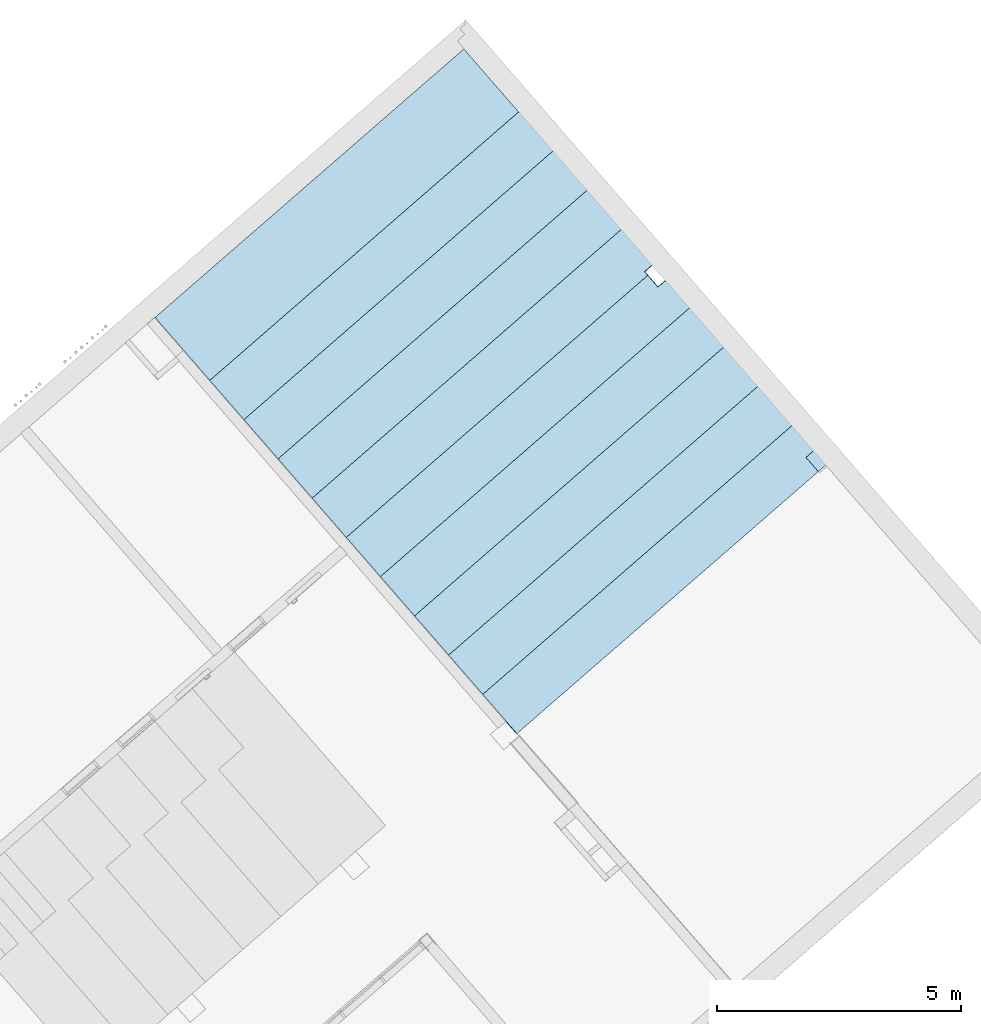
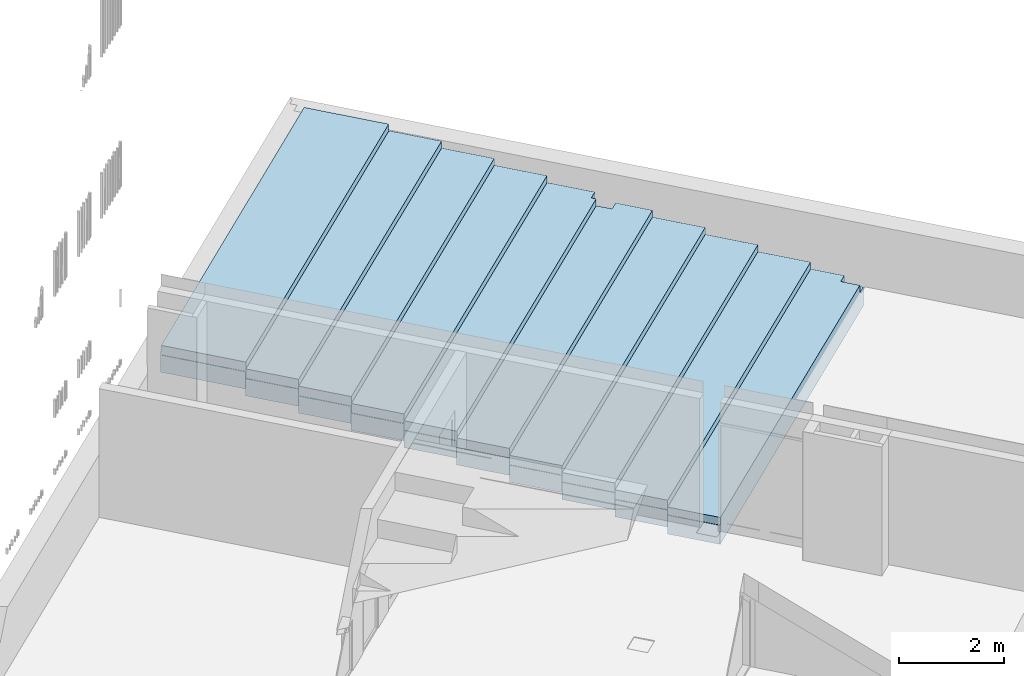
# One storey, part 18 of 124: 10 slabs.
"""IFC2X3 building model written with IfcOpenShell, lengths in millimetres."""

from ifc_helpers import new_model, entity, si_unit, converted_unit, derived_unit, money_unit, direction, frame, origin_with_axes, place, context, subcontext, project, spatial, faceted_brep, material, material_list, type_object, element, save


model = new_model("IFC2X3")

# Units and contexts
model_context = context("Model", 3, precision=1e-05, world=origin_with_axes(), true_north=direction((0.0, 1.0)))
body_context = subcontext(model_context, "Body", "Model", "MODEL_VIEW")
ifc_project = project(units=[si_unit("LENGTHUNIT", "METRE", prefix="MILLI"), si_unit("AREAUNIT", "SQUARE_METRE"), si_unit("VOLUMEUNIT", "CUBIC_METRE"), converted_unit("PLANEANGLEUNIT", "DEGREE", entity("IfcPlaneAngleMeasure", 0.0174532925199), si_unit("PLANEANGLEUNIT", "RADIAN"), dimensions=[0, 0, 0, 0, 0, 0, 0]), si_unit("SOLIDANGLEUNIT", "STERADIAN"), money_unit("EUR"), converted_unit("TIMEUNIT", "Year", entity("IfcTimeMeasure", 31556926.0), si_unit("TIMEUNIT", "SECOND"), dimensions=[0, 0, 1, 0, 0, 0, 0]), si_unit("MASSUNIT", "GRAM", prefix="KILO"), si_unit("THERMODYNAMICTEMPERATUREUNIT", "DEGREE_CELSIUS"), si_unit("LUMINOUSINTENSITYUNIT", "LUMEN"), si_unit("ENERGYUNIT", "JOULE", prefix="MEGA"), derived_unit("THERMALCONDUCTANCEUNIT", [(si_unit("POWERUNIT", "WATT"), 1), (si_unit("LENGTHUNIT", "METRE"), -1), (si_unit("THERMODYNAMICTEMPERATUREUNIT", "KELVIN"), -1)]), derived_unit("SPECIFICHEATCAPACITYUNIT", [(si_unit("ENERGYUNIT", "JOULE"), 1), (si_unit("MASSUNIT", "GRAM", prefix="KILO"), -1), (si_unit("THERMODYNAMICTEMPERATUREUNIT", "KELVIN"), -1)]), derived_unit("MASSDENSITYUNIT", [(si_unit("MASSUNIT", "GRAM", prefix="KILO"), 1), (si_unit("VOLUMEUNIT", "CUBIC_METRE"), -1)])], contexts=[model_context])

# Site, building, storey
site_placement = place(None, origin_with_axes())
site = spatial("IfcSite", under=ifc_project, at=site_placement, Name="Site", CompositionType="ELEMENT")
building_placement = place(site_placement, origin_with_axes())
building = spatial("IfcBuilding", under=site, at=building_placement, Name="Building", CompositionType="ELEMENT")
storey_placement = place(building_placement, frame((0.0, 0.0, -1615.0), z_axis=(0.0, 0.0, 1.0), x_axis=(1.0, 0.0, 0.0)))
storey = spatial("IfcBuildingStorey", under=building, at=storey_placement, Name="0  korrus", CompositionType="ELEMENT", Elevation=-1615.0)

# Slabs
ifc_material_1 = material(Name="Puit - Põrand")
ifc_material_2 = material(Name="Betoon")
ifc_material_3 = material(Name="Soojustus - Plastik Kõva")
ifc_material_4 = material(Name="Killustik")
ifc_material_list = material_list([ifc_material_1, ifc_material_2, ifc_material_3, ifc_material_3, ifc_material_4])
slab_type = type_object("IfcSlabType", Name="PP-01", PredefinedType="FLOOR")
slab_1_placement = place(storey_placement, frame((164985.791341, 103443.252918, 640.0), z_axis=(0.0, 0.0, 1.0), x_axis=(1.0, 0.0, 0.0)))
element("IfcSlab", 1, at=slab_1_placement, inside=storey, type_object=slab_type, material=ifc_material_list, Name="PP-01", PredefinedType="FLOOR", context=body_context, shape_type="Brep", body=[
    faceted_brep([(7.54744711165, 6.56089567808, 0.0), (706.250316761, -797.204811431, 0.0), (7038.26334374, 4707.13013753, 0.0), (6339.56050536, 5510.89587053, 0.0), (706.250316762, -797.204811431, -20.0), (7.54744711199, 6.56089567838, -20.0), (7038.26334374, 4707.13013753, -20.0), (6339.56050536, 5510.89587053, -20.0)], [[[0, 1, 2, 3]], [[4, 1, 0, 5]], [[1, 4, 6, 2]], [[6, 7, 3, 2]], [[5, 0, 3, 7]], [[4, 5, 7, 6]]]),
    faceted_brep([(7.54744711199, 6.56089567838, -20.0), (706.250316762, -797.204811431, -20.0), (7038.26334374, 4707.13013753, -20.0), (6339.56050536, 5510.89587053, -20.0), (706.250316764, -797.204811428, -220.0), (7.5474471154, 6.56089568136, -220.0), (7038.26334374, 4707.13013753, -220.0), (6339.56050536, 5510.89587053, -220.0)], [[[0, 1, 2, 3]], [[4, 1, 0, 5]], [[1, 4, 6, 2]], [[6, 7, 3, 2]], [[5, 0, 3, 7]], [[4, 5, 7, 6]]]),
    faceted_brep([(0.0, 0.0, -320.0), (698.702869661, -803.765707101, -320.0), (698.702869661, -803.765707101, -220.0), (0.0, 0.0, -220.0), (6339.56050536, 5510.89587053, -320.0), (7038.26334374, 4707.13013753, -320.0), (7038.26334374, 4707.13013753, -220.0), (6339.56050536, 5510.89587053, -220.0)], [[[0, 1, 2, 3]], [[1, 0, 4, 5]], [[1, 5, 6, 2]], [[7, 3, 2, 6]], [[4, 0, 3, 7]], [[5, 4, 7, 6]]]),
    faceted_brep([(0.0, 0.0, -420.0), (698.702869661, -803.765707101, -420.0), (698.702869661, -803.765707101, -320.0), (0.0, 0.0, -320.0), (6339.56050536, 5510.89587053, -420.0), (7038.26334374, 4707.13013753, -420.0), (7038.26334374, 4707.13013753, -320.0), (6339.56050536, 5510.89587053, -320.0)], [[[0, 1, 2, 3]], [[1, 0, 4, 5]], [[1, 5, 6, 2]], [[7, 3, 2, 6]], [[4, 0, 3, 7]], [[5, 4, 7, 6]]]),
    faceted_brep([(0.0, 0.0, -620.0), (698.702869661, -803.765707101, -620.0), (698.702869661, -803.765707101, -420.0), (0.0, 0.0, -420.0), (6339.56050536, 5510.89587053, -620.0), (7038.26334374, 4707.13013753, -620.0), (7038.26334374, 4707.13013753, -420.0), (6339.56050536, 5510.89587053, -420.0)], [[[0, 1, 2, 3]], [[1, 0, 4, 5]], [[1, 5, 6, 2]], [[7, 3, 2, 6]], [[4, 0, 3, 7]], [[5, 4, 7, 6]]]),
])
slab_2_placement = place(storey_placement, frame((167081.899856, 101031.955719, 160.0), z_axis=(0.0, 0.0, 1.0), x_axis=(1.0, 0.0, 0.0)))
element("IfcSlab", 2, at=slab_2_placement, inside=storey, type_object=slab_type, material=ifc_material_list, Name="PP-01", PredefinedType="FLOOR", context=body_context, shape_type="Brep", body=[
    faceted_brep([(479.910019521, -536.829898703, 0.0), (479.98055869, -536.768579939, 0.0), (706.32094866, -797.143412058, 0.0), (6879.77457733, 4569.35795477, 0.0), (6627.19182618, 4859.92116991, 0.0), (6785.68060417, 4997.69336365, 0.0), (6339.56050536, 5510.89587053, 0.0), (7.54753898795, 6.56097554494, 0.0), (479.910019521, -536.829898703, -20.0), (479.98055869, -536.768579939, -20.0), (706.32094866, -797.143412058, -20.0), (6879.77457733, 4569.35795477, -20.0), (6627.19182618, 4859.92116991, -20.0), (6785.68060417, 4997.69336365, -20.0), (6339.56050536, 5510.89587053, -20.0), (7.54753898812, 6.56097554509, -20.0)], [[[0, 1, 2, 3, 4, 5, 6, 7]], [[1, 0, 8, 9]], [[10, 2, 1, 9]], [[2, 10, 11, 3]], [[4, 3, 11, 12]], [[13, 5, 4, 12]], [[5, 13, 14, 6]], [[14, 15, 7, 6]], [[8, 0, 7, 15]], [[9, 8, 15, 14, 13, 12, 11, 10]]]),
    faceted_brep([(479.910019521, -536.829898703, -20.0), (479.98055869, -536.768579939, -20.0), (706.32094866, -797.143412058, -20.0), (6879.77457733, 4569.35795477, -20.0), (6627.19182618, 4859.92116991, -20.0), (6785.68060417, 4997.69336365, -20.0), (6339.56050536, 5510.89587053, -20.0), (7.54753898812, 6.56097554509, -20.0), (479.910019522, -536.829898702, -180.0), (479.98055869, -536.768579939, -180.0), (706.32094866, -797.143412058, -180.0), (706.250408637, -797.204731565, -180.0), (698.703312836, -803.765321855, -180.0), (698.702869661, -803.765707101, -220.0), (7038.26334374, 4707.13013753, -220.0), (7038.26334374, 4707.13013753, -180.0), (6879.77457733, 4569.35795477, -180.0), (6627.19182618, 4859.92116991, -180.0), (6785.68059309, 4997.69335402, -180.0), (6339.56050536, 5510.89587053, -220.0), (0.000443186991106, 0.000385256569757, -180.0), (7.54753898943, 6.56097554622, -180.0), (0.0, 0.0, -220.0)], [[[0, 1, 2, 3, 4, 5, 6, 7]], [[1, 0, 8, 9]], [[10, 2, 1, 9]], [[10, 11, 12, 13, 14, 15, 16, 3, 2]], [[4, 3, 16, 17]], [[18, 5, 4, 17]], [[18, 15, 14, 19, 6, 5]], [[20, 21, 7, 6, 19, 22]], [[8, 0, 7, 21]], [[11, 10, 9, 8, 21, 20, 12]], [[13, 12, 20, 22]], [[14, 13, 22, 19]], [[15, 18, 17, 16]]]),
    faceted_brep([(698.702869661, -803.765707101, -320.0), (698.702869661, -803.765707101, -220.0), (0.0, 0.0, -220.0), (0.0, 0.0, -320.0), (7038.26334374, 4707.13013753, -320.0), (7038.26334374, 4707.13013753, -220.0), (6339.56050536, 5510.89587053, -220.0), (6339.56050536, 5510.89587053, -320.0)], [[[0, 1, 2, 3]], [[4, 5, 1, 0]], [[2, 1, 5, 6]], [[3, 2, 6, 7]], [[3, 7, 4, 0]], [[7, 6, 5, 4]]]),
    faceted_brep([(698.702869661, -803.765707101, -420.0), (698.702869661, -803.765707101, -320.0), (0.0, 0.0, -320.0), (0.0, 0.0, -420.0), (7038.26334374, 4707.13013753, -420.0), (7038.26334374, 4707.13013753, -320.0), (6339.56050536, 5510.89587053, -320.0), (6339.56050536, 5510.89587053, -420.0)], [[[0, 1, 2, 3]], [[4, 5, 1, 0]], [[2, 1, 5, 6]], [[3, 2, 6, 7]], [[3, 7, 4, 0]], [[7, 6, 5, 4]]]),
    faceted_brep([(698.702869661, -803.765707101, -620.0), (698.702869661, -803.765707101, -420.0), (0.0, 0.0, -420.0), (0.0, 0.0, -620.0), (7038.26334374, 4707.13013753, -620.0), (7038.26334374, 4707.13013753, -420.0), (6339.56050536, 5510.89587053, -420.0), (6339.56050536, 5510.89587053, -620.0)], [[[0, 1, 2, 3]], [[4, 5, 1, 0]], [[2, 1, 5, 6]], [[3, 2, 6, 7]], [[3, 7, 4, 0]], [[7, 6, 5, 4]]]),
])
slab_3_placement = place(storey_placement, frame((161492.277149, 107462.081583, 1440.0), z_axis=(0.0, 0.0, 1.0), x_axis=(1.0, 0.0, 0.0)))
element("IfcSlab", 3, at=slab_3_placement, inside=storey, type_object=slab_type, material=ifc_material_list, Name="PP-01", PredefinedType="FLOOR", context=body_context, shape_type="Brep", body=[
    faceted_brep([(7.54729396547, 6.56076255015, 0.0), (706.250163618, -797.204944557, 0.0), (7038.26334374, 4707.13013753, 0.0), (6339.56050536, 5510.89587053, 0.0), (706.250163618, -797.204944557, -20.0), (7.5472939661, 6.56076255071, -20.0), (7038.26334374, 4707.13013753, -20.0), (6339.56050536, 5510.89587053, -20.0)], [[[0, 1, 2, 3]], [[4, 1, 0, 5]], [[1, 4, 6, 2]], [[6, 7, 3, 2]], [[5, 0, 3, 7]], [[4, 5, 7, 6]]]),
    faceted_brep([(7.5472939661, 6.56076255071, -20.0), (706.250163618, -797.204944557, -20.0), (7038.26334374, 4707.13013753, -20.0), (6339.56050536, 5510.89587053, -20.0), (706.250163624, -797.204944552, -220.0), (7.54729397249, 6.56076255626, -220.0), (7038.26334374, 4707.13013753, -220.0), (6339.56050536, 5510.89587053, -220.0)], [[[0, 1, 2, 3]], [[4, 1, 0, 5]], [[1, 4, 6, 2]], [[6, 7, 3, 2]], [[5, 0, 3, 7]], [[4, 5, 7, 6]]]),
    faceted_brep([(0.0, 0.0, -320.0), (698.702869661, -803.765707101, -320.0), (698.702869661, -803.765707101, -220.0), (0.0, 0.0, -220.0), (6339.56050536, 5510.89587053, -320.0), (7038.26334374, 4707.13013753, -320.0), (7038.26334374, 4707.13013753, -220.0), (6339.56050536, 5510.89587053, -220.0)], [[[0, 1, 2, 3]], [[1, 0, 4, 5]], [[1, 5, 6, 2]], [[7, 3, 2, 6]], [[4, 0, 3, 7]], [[5, 4, 7, 6]]]),
    faceted_brep([(0.0, 0.0, -420.0), (698.702869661, -803.765707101, -420.0), (698.702869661, -803.765707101, -320.0), (0.0, 0.0, -320.0), (6339.56050536, 5510.89587053, -420.0), (7038.26334374, 4707.13013753, -420.0), (7038.26334374, 4707.13013753, -320.0), (6339.56050536, 5510.89587053, -320.0)], [[[0, 1, 2, 3]], [[1, 0, 4, 5]], [[1, 5, 6, 2]], [[7, 3, 2, 6]], [[4, 0, 3, 7]], [[5, 4, 7, 6]]]),
    faceted_brep([(0.0, 0.0, -620.0), (698.702869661, -803.765707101, -620.0), (698.702869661, -803.765707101, -420.0), (0.0, 0.0, -420.0), (6339.56050536, 5510.89587053, -620.0), (7038.26334374, 4707.13013753, -620.0), (7038.26334374, 4707.13013753, -420.0), (6339.56050536, 5510.89587053, -420.0)], [[[0, 1, 2, 3]], [[1, 0, 4, 5]], [[1, 5, 6, 2]], [[7, 3, 2, 6]], [[4, 0, 3, 7]], [[5, 4, 7, 6]]]),
])
slab_4_placement = place(storey_placement, frame((160363.855622, 108760.182057, 1600.0), z_axis=(0.0, 0.0, 1.0), x_axis=(1.0, 0.0, 0.0)))
element("IfcSlab", 4, at=slab_4_placement, inside=storey, type_object=slab_type, material=ifc_material_list, Name="PP-01", PredefinedType="FLOOR", context=body_context, shape_type="Brep", body=[
    faceted_brep([(7460.43490846, 4206.23478127, -20.0), (7460.43490846, 4206.23478127, 0.0), (1135.96882105, -1291.53971191, 0.0), (1135.96882106, -1291.53971191, -20.0), (6338.57397142, 5496.78816072, -20.0), (6338.57397142, 5496.78816072, 0.0), (14.1079329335, -0.986291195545, 0.0), (14.1079329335, -0.986291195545, -20.0)], [[[0, 1, 2, 3]], [[1, 0, 4, 5]], [[1, 5, 6, 2]], [[7, 3, 2, 6]], [[0, 3, 7, 4]], [[6, 5, 4, 7]]]),
    faceted_brep([(6.56080996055, -7.54691465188, -220.0), (6.56080751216, -7.54691465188, -135.0), (0.000213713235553, 0.000185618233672, -135.0), (0.0, 0.0, -220.0), (14.1079016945, -0.986293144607, -220.0), (14.1079328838, -0.986291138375, -135.0), (6338.57397142, 5496.78816072, -135.0), (7460.43490846, 4206.23478127, -135.0), (7467.98200426, 4212.79537156, -135.0), (6339.56047693, 5510.89584682, -135.0), (6339.5604743, 5510.89584463, -220.0), (7467.98203245, 4212.79539607, -220.0), (1135.96882106, -1291.5397119, -220.0), (1135.96882106, -1291.53971191, -20.0), (14.1079053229, -0.986296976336, -20.0), (6338.57397142, 5496.78816072, -20.0), (7460.43490846, 4206.23478127, -20.0)], [[[0, 1, 2, 3]], [[1, 0, 4, 5]], [[1, 5, 6, 7, 8, 9, 2]], [[3, 2, 9, 10]], [[4, 0, 3, 10, 11, 12]], [[5, 4, 12, 13, 14]], [[5, 14, 15, 6]], [[7, 6, 15, 16]], [[13, 12, 11, 8, 7, 16]], [[10, 9, 8, 11]], [[14, 13, 16, 15]]]),
    faceted_brep([(0.0, 0.0, -320.0), (1128.42152709, -1298.10047445, -320.0), (1128.42152709, -1298.10047445, -220.0), (0.0, 0.0, -220.0), (6339.5604743, 5510.89584463, -320.0), (7467.98203245, 4212.79539607, -320.0), (7467.98203245, 4212.79539607, -220.0), (6339.5604743, 5510.89584463, -220.0)], [[[0, 1, 2, 3]], [[1, 0, 4, 5]], [[1, 5, 6, 2]], [[7, 3, 2, 6]], [[4, 0, 3, 7]], [[5, 4, 7, 6]]]),
    faceted_brep([(0.0, 0.0, -420.0), (1128.42152709, -1298.10047445, -420.0), (1128.42152709, -1298.10047445, -320.0), (0.0, 0.0, -320.0), (6339.5604743, 5510.89584463, -420.0), (7467.98203245, 4212.79539607, -420.0), (7467.98203245, 4212.79539607, -320.0), (6339.5604743, 5510.89584463, -320.0)], [[[0, 1, 2, 3]], [[1, 0, 4, 5]], [[1, 5, 6, 2]], [[7, 3, 2, 6]], [[4, 0, 3, 7]], [[5, 4, 7, 6]]]),
    faceted_brep([(0.0, 0.0, -620.0), (1128.42152709, -1298.10047445, -620.0), (1128.42152709, -1298.10047445, -420.0), (0.0, 0.0, -420.0), (6339.5604743, 5510.89584463, -620.0), (7467.98203245, 4212.79539607, -620.0), (7467.98203245, 4212.79539607, -420.0), (6339.5604743, 5510.89584463, -420.0)], [[[0, 1, 2, 3]], [[1, 0, 4, 5]], [[1, 5, 6, 2]], [[7, 3, 2, 6]], [[4, 0, 3, 7]], [[5, 4, 7, 6]]]),
])
slab_5_placement = place(storey_placement, frame((166383.197018, 101835.721452, 320.0), z_axis=(0.0, 0.0, 1.0), x_axis=(1.0, 0.0, 0.0)))
element("IfcSlab", 5, at=slab_5_placement, inside=storey, type_object=slab_type, material=ifc_material_list, Name="PP-01", PredefinedType="FLOOR", context=body_context, shape_type="Brep", body=[
    faceted_brep([(7.54750836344, 6.56094892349, 0.0), (706.250378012, -797.204758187, 0.0), (7038.26334374, 4707.13013753, 0.0), (6339.56050536, 5510.89587053, 0.0), (706.250378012, -797.204758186, -20.0), (7.54750836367, 6.56094892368, -20.0), (7038.26334374, 4707.13013753, -20.0), (6339.56050536, 5510.89587053, -20.0)], [[[0, 1, 2, 3]], [[4, 1, 0, 5]], [[1, 4, 6, 2]], [[6, 7, 3, 2]], [[5, 0, 3, 7]], [[4, 5, 7, 6]]]),
    faceted_brep([(7.54750836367, 6.56094892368, -20.0), (706.250378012, -797.204758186, -20.0), (7038.26334374, 4707.13013753, -20.0), (6339.56050536, 5510.89587053, -20.0), (706.250378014, -797.204758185, -220.0), (7.54750836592, 6.56094892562, -220.0), (7038.26334374, 4707.13013753, -220.0), (6339.56050536, 5510.89587053, -220.0)], [[[0, 1, 2, 3]], [[4, 1, 0, 5]], [[1, 4, 6, 2]], [[6, 7, 3, 2]], [[5, 0, 3, 7]], [[4, 5, 7, 6]]]),
    faceted_brep([(0.0, 0.0, -320.0), (698.702869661, -803.765707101, -320.0), (698.702869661, -803.765707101, -220.0), (0.0, 0.0, -220.0), (6339.56050536, 5510.89587053, -320.0), (7038.26334374, 4707.13013753, -320.0), (7038.26334374, 4707.13013753, -220.0), (6339.56050536, 5510.89587053, -220.0)], [[[0, 1, 2, 3]], [[1, 0, 4, 5]], [[1, 5, 6, 2]], [[7, 3, 2, 6]], [[4, 0, 3, 7]], [[5, 4, 7, 6]]]),
    faceted_brep([(0.0, 0.0, -420.0), (698.702869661, -803.765707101, -420.0), (698.702869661, -803.765707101, -320.0), (0.0, 0.0, -320.0), (6339.56050536, 5510.89587053, -420.0), (7038.26334374, 4707.13013753, -420.0), (7038.26334374, 4707.13013753, -320.0), (6339.56050536, 5510.89587053, -320.0)], [[[0, 1, 2, 3]], [[1, 0, 4, 5]], [[1, 5, 6, 2]], [[7, 3, 2, 6]], [[4, 0, 3, 7]], [[5, 4, 7, 6]]]),
    faceted_brep([(698.702869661, -803.765707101, -620.0), (698.702869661, -803.765707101, -420.0), (0.0, 0.0, -420.0), (0.0, 0.0, -620.0), (7038.26334374, 4707.13013753, -620.0), (7038.26334374, 4707.13013753, -420.0), (6339.56050536, 5510.89587053, -420.0), (6339.56050536, 5510.89587053, -620.0)], [[[0, 1, 2, 3]], [[4, 5, 1, 0]], [[2, 1, 5, 6]], [[3, 2, 6, 7]], [[3, 7, 4, 0]], [[7, 6, 5, 4]]]),
])
slab_6_placement = place(storey_placement, frame((165684.49418, 102639.487185, 480.0), z_axis=(0.0, 0.0, 1.0), x_axis=(1.0, 0.0, 0.0)))
element("IfcSlab", 6, at=slab_6_placement, inside=storey, type_object=slab_type, material=ifc_material_list, Name="PP-01", PredefinedType="FLOOR", context=body_context, shape_type="Brep", body=[
    faceted_brep([(7.54747773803, 6.5609223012, 0.0), (706.250347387, -797.204784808, 0.0), (7038.26334374, 4707.13013753, 0.0), (6339.56050536, 5510.89587053, 0.0), (706.250347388, -797.204784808, -20.0), (7.54747773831, 6.56092230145, -20.0), (7038.26334374, 4707.13013753, -20.0), (6339.56050536, 5510.89587053, -20.0)], [[[0, 1, 2, 3]], [[4, 1, 0, 5]], [[1, 4, 6, 2]], [[6, 7, 3, 2]], [[5, 0, 3, 7]], [[4, 5, 7, 6]]]),
    faceted_brep([(7.54747773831, 6.56092230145, -20.0), (706.250347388, -797.204784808, -20.0), (7038.26334374, 4707.13013753, -20.0), (6339.56050536, 5510.89587053, -20.0), (706.25034739, -797.204784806, -220.0), (7.54747774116, 6.5609223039, -220.0), (7038.26334374, 4707.13013753, -220.0), (6339.56050536, 5510.89587053, -220.0)], [[[0, 1, 2, 3]], [[4, 1, 0, 5]], [[1, 4, 6, 2]], [[6, 7, 3, 2]], [[5, 0, 3, 7]], [[4, 5, 7, 6]]]),
    faceted_brep([(0.0, 0.0, -320.0), (698.702869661, -803.765707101, -320.0), (698.702869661, -803.765707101, -220.0), (0.0, 0.0, -220.0), (6339.56050536, 5510.89587053, -320.0), (7038.26334374, 4707.13013753, -320.0), (7038.26334374, 4707.13013753, -220.0), (6339.56050536, 5510.89587053, -220.0)], [[[0, 1, 2, 3]], [[1, 0, 4, 5]], [[1, 5, 6, 2]], [[7, 3, 2, 6]], [[4, 0, 3, 7]], [[5, 4, 7, 6]]]),
    faceted_brep([(0.0, 0.0, -420.0), (698.702869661, -803.765707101, -420.0), (698.702869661, -803.765707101, -320.0), (0.0, 0.0, -320.0), (6339.56050536, 5510.89587053, -420.0), (7038.26334374, 4707.13013753, -420.0), (7038.26334374, 4707.13013753, -320.0), (6339.56050536, 5510.89587053, -320.0)], [[[0, 1, 2, 3]], [[1, 0, 4, 5]], [[1, 5, 6, 2]], [[7, 3, 2, 6]], [[4, 0, 3, 7]], [[5, 4, 7, 6]]]),
    faceted_brep([(0.0, 0.0, -620.0), (698.702869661, -803.765707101, -620.0), (698.702869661, -803.765707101, -420.0), (0.0, 0.0, -420.0), (6339.56050536, 5510.89587053, -620.0), (7038.26334374, 4707.13013753, -620.0), (7038.26334374, 4707.13013753, -420.0), (6339.56050536, 5510.89587053, -420.0)], [[[0, 1, 2, 3]], [[1, 0, 4, 5]], [[1, 5, 6, 2]], [[7, 3, 2, 6]], [[4, 0, 3, 7]], [[5, 4, 7, 6]]]),
])
slab_7_placement = place(storey_placement, frame((163588.385664, 105050.784384, 960.0), z_axis=(0.0, 0.0, 1.0), x_axis=(1.0, 0.0, 0.0)))
element("IfcSlab", 7, at=slab_7_placement, inside=storey, type_object=slab_type, material=ifc_material_list, Name="PP-01", PredefinedType="FLOOR", context=body_context, shape_type="Brep", body=[
    faceted_brep([(6879.77442376, 4569.35782128, 0.0), (6814.16850971, 4644.82879161, 0.0), (6972.65743236, 4782.6011111, 0.0), (6339.56050536, 5510.89587053, 0.0), (7.54738585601, 6.56084242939, 0.0), (706.250255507, -797.204864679, 0.0), (6879.77442376, 4569.35782128, -20.0), (6814.16850971, 4644.82879161, -20.0), (6972.65743236, 4782.6011111, -20.0), (6339.56050536, 5510.89587053, -20.0), (7.54738585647, 6.56084242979, -20.0), (706.250255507, -797.204864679, -20.0)], [[[0, 1, 2, 3, 4, 5]], [[1, 0, 6, 7]], [[8, 2, 1, 7]], [[2, 8, 9, 3]], [[9, 10, 4, 3]], [[10, 11, 5, 4]], [[6, 0, 5, 11]], [[7, 6, 11, 10, 9, 8]]]),
    faceted_brep([(6879.77442376, 4569.35782128, -20.0), (6814.16850971, 4644.82879161, -20.0), (6972.65743236, 4782.6011111, -20.0), (6339.56050536, 5510.89587053, -20.0), (7.54738585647, 6.56084242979, -20.0), (706.250255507, -797.204864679, -20.0), (6879.77442376, 4569.35782128, -220.0), (6814.16850971, 4644.82879161, -220.0), (6972.65743236, 4782.6011111, -220.0), (6339.56050536, 5510.89587053, -220.0), (7.5473858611, 6.5608424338, -220.0), (706.250255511, -797.204864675, -220.0)], [[[0, 1, 2, 3, 4, 5]], [[1, 0, 6, 7]], [[8, 2, 1, 7]], [[2, 8, 9, 3]], [[9, 10, 4, 3]], [[10, 11, 5, 4]], [[6, 0, 5, 11]], [[7, 6, 11, 10, 9, 8]]]),
    faceted_brep([(6887.32151956, 4575.91841157, -220.0), (6828.27619581, 4643.84228614, -220.0), (6979.21802237, 4775.05401505, -220.0), (6339.56050536, 5510.89587053, -220.0), (0.0, 0.0, -220.0), (698.702869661, -803.765707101, -220.0), (6887.32151956, 4575.91841157, -320.0), (6828.27619581, 4643.84228614, -320.0), (6979.21802237, 4775.05401505, -320.0), (6339.56050536, 5510.89587053, -320.0), (0.0, 0.0, -320.0), (698.702869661, -803.765707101, -320.0)], [[[0, 1, 2, 3, 4, 5]], [[1, 0, 6, 7]], [[8, 2, 1, 7]], [[2, 8, 9, 3]], [[3, 9, 10, 4]], [[4, 10, 11, 5]], [[6, 0, 5, 11]], [[7, 6, 11, 10, 9, 8]]]),
    faceted_brep([(6887.32151956, 4575.91841157, -320.0), (6828.27619581, 4643.84228614, -320.0), (6979.21802237, 4775.05401505, -320.0), (6339.56050536, 5510.89587053, -320.0), (0.0, 0.0, -320.0), (698.702869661, -803.765707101, -320.0), (6887.32151956, 4575.91841157, -420.0), (6828.27619581, 4643.84228614, -420.0), (6979.21802237, 4775.05401505, -420.0), (6339.56050536, 5510.89587053, -420.0), (0.0, 0.0, -420.0), (698.702869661, -803.765707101, -420.0)], [[[0, 1, 2, 3, 4, 5]], [[1, 0, 6, 7]], [[8, 2, 1, 7]], [[2, 8, 9, 3]], [[3, 9, 10, 4]], [[4, 10, 11, 5]], [[6, 0, 5, 11]], [[7, 6, 11, 10, 9, 8]]]),
    faceted_brep([(6887.32151956, 4575.91841157, -420.0), (6828.27619581, 4643.84228614, -420.0), (6979.21802237, 4775.05401505, -420.0), (6339.56050536, 5510.89587053, -420.0), (0.0, 0.0, -420.0), (698.702869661, -803.765707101, -420.0), (6887.32151956, 4575.91841157, -620.0), (6828.27619581, 4643.84228614, -620.0), (6979.21802237, 4775.05401505, -620.0), (6339.56050536, 5510.89587053, -620.0), (0.0, 0.0, -620.0), (698.702869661, -803.765707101, -620.0)], [[[0, 1, 2, 3, 4, 5]], [[1, 0, 6, 7]], [[8, 2, 1, 7]], [[2, 8, 9, 3]], [[3, 9, 10, 4]], [[4, 10, 11, 5]], [[6, 0, 5, 11]], [[7, 6, 11, 10, 9, 8]]]),
])
slab_8_placement = place(storey_placement, frame((162889.682826, 105854.550117, 1120.0), z_axis=(0.0, 0.0, 1.0), x_axis=(1.0, 0.0, 0.0)))
element("IfcSlab", 8, at=slab_8_placement, inside=storey, type_object=slab_type, material=ifc_material_list, Name="PP-01", PredefinedType="FLOOR", context=body_context, shape_type="Brep", body=[
    faceted_brep([(7.54735522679, 6.56081580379, 0.0), (706.250224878, -797.204891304, 0.0), (7038.26334374, 4707.13013753, 0.0), (6339.56050536, 5510.89587053, 0.0), (706.250224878, -797.204891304, -20.0), (7.5473552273, 6.56081580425, -20.0), (7038.26334374, 4707.13013753, -20.0), (6339.56050536, 5510.89587053, -20.0)], [[[0, 1, 2, 3]], [[4, 1, 0, 5]], [[1, 4, 6, 2]], [[6, 7, 3, 2]], [[5, 0, 3, 7]], [[4, 5, 7, 6]]]),
    faceted_brep([(7.5473552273, 6.56081580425, -20.0), (706.250224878, -797.204891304, -20.0), (7038.26334374, 4707.13013753, -20.0), (6339.56050536, 5510.89587053, -20.0), (706.250224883, -797.2048913, -220.0), (7.5473552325, 6.56081580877, -220.0), (7038.26334374, 4707.13013753, -220.0), (6339.56050536, 5510.89587053, -220.0)], [[[0, 1, 2, 3]], [[4, 1, 0, 5]], [[1, 4, 6, 2]], [[6, 7, 3, 2]], [[5, 0, 3, 7]], [[4, 5, 7, 6]]]),
    faceted_brep([(0.0, 0.0, -320.0), (698.702869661, -803.765707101, -320.0), (698.702869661, -803.765707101, -220.0), (0.0, 0.0, -220.0), (6339.56050536, 5510.89587053, -320.0), (7038.26334374, 4707.13013753, -320.0), (7038.26334374, 4707.13013753, -220.0), (6339.56050536, 5510.89587053, -220.0)], [[[0, 1, 2, 3]], [[1, 0, 4, 5]], [[1, 5, 6, 2]], [[7, 3, 2, 6]], [[4, 0, 3, 7]], [[5, 4, 7, 6]]]),
    faceted_brep([(0.0, 0.0, -420.0), (698.702869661, -803.765707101, -420.0), (698.702869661, -803.765707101, -320.0), (0.0, 0.0, -320.0), (6339.56050536, 5510.89587053, -420.0), (7038.26334374, 4707.13013753, -420.0), (7038.26334374, 4707.13013753, -320.0), (6339.56050536, 5510.89587053, -320.0)], [[[0, 1, 2, 3]], [[1, 0, 4, 5]], [[1, 5, 6, 2]], [[7, 3, 2, 6]], [[4, 0, 3, 7]], [[5, 4, 7, 6]]]),
    faceted_brep([(0.0, 0.0, -620.0), (698.702869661, -803.765707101, -620.0), (698.702869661, -803.765707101, -420.0), (0.0, 0.0, -420.0), (6339.56050536, 5510.89587053, -620.0), (7038.26334374, 4707.13013753, -620.0), (7038.26334374, 4707.13013753, -420.0), (6339.56050536, 5510.89587053, -420.0)], [[[0, 1, 2, 3]], [[1, 0, 4, 5]], [[1, 5, 6, 2]], [[7, 3, 2, 6]], [[4, 0, 3, 7]], [[5, 4, 7, 6]]]),
])
slab_9_placement = place(storey_placement, frame((162190.979988, 106658.31585, 1280.0), z_axis=(0.0, 0.0, 1.0), x_axis=(1.0, 0.0, 0.0)))
element("IfcSlab", 9, at=slab_9_placement, inside=storey, type_object=slab_type, material=ifc_material_list, Name="PP-01", PredefinedType="FLOOR", context=body_context, shape_type="Brep", body=[
    faceted_brep([(7.5473245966, 6.56078917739, 0.0), (706.250194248, -797.20491793, 0.0), (7038.26334374, 4707.13013753, 0.0), (6339.56050536, 5510.89587053, 0.0), (706.250194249, -797.20491793, -20.0), (7.5473245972, 6.5607891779, -20.0), (7038.26334374, 4707.13013753, -20.0), (6339.56050536, 5510.89587053, -20.0)], [[[0, 1, 2, 3]], [[4, 1, 0, 5]], [[1, 4, 6, 2]], [[6, 7, 3, 2]], [[5, 0, 3, 7]], [[4, 5, 7, 6]]]),
    faceted_brep([(7.5473245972, 6.5607891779, -20.0), (706.250194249, -797.20491793, -20.0), (7038.26334374, 4707.13013753, -20.0), (6339.56050536, 5510.89587053, -20.0), (706.250194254, -797.204917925, -220.0), (7.547324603, 6.56078918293, -220.0), (7038.26334374, 4707.13013753, -220.0), (6339.56050536, 5510.89587053, -220.0)], [[[0, 1, 2, 3]], [[4, 1, 0, 5]], [[1, 4, 6, 2]], [[6, 7, 3, 2]], [[5, 0, 3, 7]], [[4, 5, 7, 6]]]),
    faceted_brep([(0.0, 0.0, -320.0), (698.702869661, -803.765707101, -320.0), (698.702869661, -803.765707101, -220.0), (0.0, 0.0, -220.0), (6339.56050536, 5510.89587053, -320.0), (7038.26334374, 4707.13013753, -320.0), (7038.26334374, 4707.13013753, -220.0), (6339.56050536, 5510.89587053, -220.0)], [[[0, 1, 2, 3]], [[1, 0, 4, 5]], [[1, 5, 6, 2]], [[7, 3, 2, 6]], [[4, 0, 3, 7]], [[5, 4, 7, 6]]]),
    faceted_brep([(0.0, 0.0, -420.0), (698.702869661, -803.765707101, -420.0), (698.702869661, -803.765707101, -320.0), (0.0, 0.0, -320.0), (6339.56050536, 5510.89587053, -420.0), (7038.26334374, 4707.13013753, -420.0), (7038.26334374, 4707.13013753, -320.0), (6339.56050536, 5510.89587053, -320.0)], [[[0, 1, 2, 3]], [[1, 0, 4, 5]], [[1, 5, 6, 2]], [[7, 3, 2, 6]], [[4, 0, 3, 7]], [[5, 4, 7, 6]]]),
    faceted_brep([(0.0, 0.0, -620.0), (698.702869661, -803.765707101, -620.0), (698.702869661, -803.765707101, -420.0), (0.0, 0.0, -420.0), (6339.56050536, 5510.89587053, -620.0), (7038.26334374, 4707.13013753, -620.0), (7038.26334374, 4707.13013753, -420.0), (6339.56050536, 5510.89587053, -420.0)], [[[0, 1, 2, 3]], [[1, 0, 4, 5]], [[1, 5, 6, 2]], [[7, 3, 2, 6]], [[4, 0, 3, 7]], [[5, 4, 7, 6]]]),
])
slab_10_placement = place(storey_placement, frame((164287.088503, 104247.018651, 800.0), z_axis=(0.0, 0.0, 1.0), x_axis=(1.0, 0.0, 0.0)))
element("IfcSlab", 10, at=slab_10_placement, inside=storey, type_object=slab_type, material=ifc_material_list, Name="PP-01", PredefinedType="FLOOR", context=body_context, shape_type="Brep", body=[
    faceted_brep([(6549.49937411, 5269.38880993, -20.0), (6549.49937411, 5269.38880993, 0.0), (7038.26334374, 4707.13013753, 0.0), (7038.26334374, 4707.13013753, -20.0), (6391.01046458, 5131.61650184, 0.0), (6391.01046458, 5131.61650184, -20.0), (6181.07158536, 5373.12355429, 0.0), (7.5474164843, 6.56086905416, 0.0), (706.250286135, -797.204838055, 0.0), (706.250286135, -797.204838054, -20.0), (7.5474164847, 6.56086905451, -20.0), (6181.07158536, 5373.12355429, -20.0)], [[[0, 1, 2, 3]], [[4, 1, 0, 5]], [[4, 6, 7, 8, 2, 1]], [[2, 8, 9, 3]], [[5, 0, 3, 9, 10, 11]], [[6, 4, 5, 11]], [[6, 11, 10, 7]], [[10, 9, 8, 7]]]),
    faceted_brep([(6549.49937411, 5269.38880993, -220.0), (6549.49937411, 5269.38880993, -20.0), (7038.26334374, 4707.13013753, -20.0), (7038.26334374, 4707.13013753, -220.0), (6391.01046458, 5131.61650184, -20.0), (6391.01046458, 5131.61650184, -220.0), (6181.07158536, 5373.12355429, -20.0), (7.5474164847, 6.56086905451, -20.0), (706.250286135, -797.204838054, -20.0), (706.250286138, -797.204838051, -220.0), (7.54741648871, 6.56086905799, -220.0), (6181.07158536, 5373.12355429, -220.0)], [[[0, 1, 2, 3]], [[4, 1, 0, 5]], [[4, 6, 7, 8, 2, 1]], [[2, 8, 9, 3]], [[5, 0, 3, 9, 10, 11]], [[6, 4, 5, 11]], [[6, 11, 10, 7]], [[10, 9, 8, 7]]]),
    faceted_brep([(6542.93878411, 5276.93590598, -320.0), (6542.93878411, 5276.93590598, -220.0), (7038.26334374, 4707.13013753, -220.0), (7038.26334374, 4707.13013753, -320.0), (6391.99697004, 5145.72418794, -220.0), (6391.99697004, 5145.72418794, -320.0), (6188.61868116, 5379.68414458, -220.0), (0.0, 0.0, -220.0), (698.702869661, -803.765707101, -220.0), (698.702869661, -803.765707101, -320.0), (0.0, 0.0, -320.0), (6188.61868116, 5379.68414458, -320.0)], [[[0, 1, 2, 3]], [[4, 1, 0, 5]], [[4, 6, 7, 8, 2, 1]], [[8, 9, 3, 2]], [[5, 0, 3, 9, 10, 11]], [[6, 4, 5, 11]], [[6, 11, 10, 7]], [[7, 10, 9, 8]]]),
    faceted_brep([(6542.93878411, 5276.93590598, -420.0), (6542.93878411, 5276.93590598, -320.0), (7038.26334374, 4707.13013753, -320.0), (7038.26334374, 4707.13013753, -420.0), (6391.99697004, 5145.72418794, -320.0), (6391.99697004, 5145.72418794, -420.0), (6188.61868116, 5379.68414458, -320.0), (0.0, 0.0, -320.0), (698.702869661, -803.765707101, -320.0), (698.702869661, -803.765707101, -420.0), (0.0, 0.0, -420.0), (6188.61868116, 5379.68414458, -420.0)], [[[0, 1, 2, 3]], [[4, 1, 0, 5]], [[4, 6, 7, 8, 2, 1]], [[8, 9, 3, 2]], [[5, 0, 3, 9, 10, 11]], [[6, 4, 5, 11]], [[6, 11, 10, 7]], [[7, 10, 9, 8]]]),
    faceted_brep([(6542.93878411, 5276.93590598, -620.0), (6542.93878411, 5276.93590598, -420.0), (7038.26334374, 4707.13013753, -420.0), (7038.26334374, 4707.13013753, -620.0), (6391.99697004, 5145.72418794, -420.0), (6391.99697004, 5145.72418794, -620.0), (6188.61868116, 5379.68414458, -420.0), (0.0, 0.0, -420.0), (698.702869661, -803.765707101, -420.0), (698.702869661, -803.765707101, -620.0), (0.0, 0.0, -620.0), (6188.61868116, 5379.68414458, -620.0)], [[[0, 1, 2, 3]], [[4, 1, 0, 5]], [[4, 6, 7, 8, 2, 1]], [[8, 9, 3, 2]], [[5, 0, 3, 9, 10, 11]], [[6, 4, 5, 11]], [[6, 11, 10, 7]], [[7, 10, 9, 8]]]),
])

save(model, "model.ifc")
